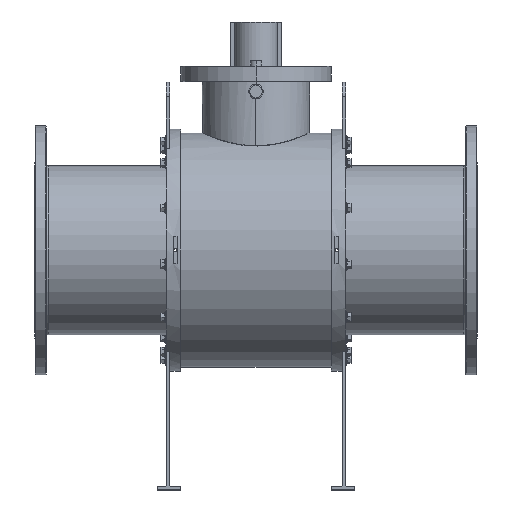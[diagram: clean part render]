
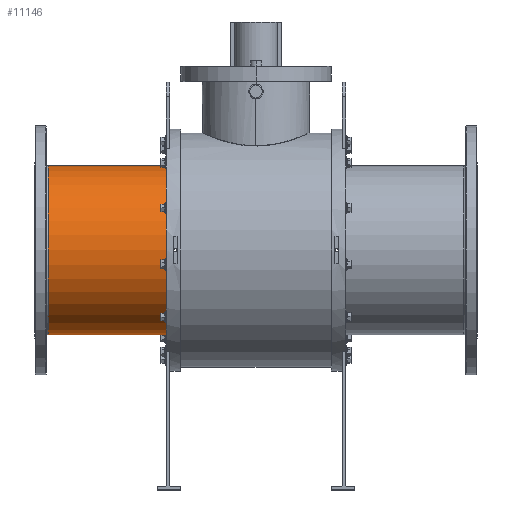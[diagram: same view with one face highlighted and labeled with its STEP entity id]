
A CAD part, top view. The second image highlights one B-rep face of the part: STEP entity #11146.
In plain terms, the highlighted cylindrical face has radius 232.75 mm (diameter 465.5 mm), a partial arc.
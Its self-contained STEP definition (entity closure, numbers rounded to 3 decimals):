
#322 = DIRECTION ( 'NONE',  ( -1., 0., 0. ) ) ;
#726 = CYLINDRICAL_SURFACE ( 'NONE', #10159, 232.75 ) ;
#1344 = ORIENTED_EDGE ( 'NONE', *, *, #8030, .F. ) ;
#1871 = DIRECTION ( 'NONE',  ( -1., 0., 0. ) ) ;
#2106 = CARTESIAN_POINT ( 'NONE',  ( -572.5, 0., 0. ) ) ;
#2109 = CARTESIAN_POINT ( 'NONE',  ( -247.5, 232.75, 0. ) ) ;
#2620 = CARTESIAN_POINT ( 'NONE',  ( -572.5, -232.75, 0. ) ) ;
#2702 = FACE_OUTER_BOUND ( 'NONE', #13178, .T. ) ;
#2843 = DIRECTION ( 'NONE',  ( -1., 0., 0. ) ) ;
#2879 = VERTEX_POINT ( 'NONE', #2620 ) ;
#2881 = CARTESIAN_POINT ( 'NONE',  ( -572.5, 232.75, 0. ) ) ;
#3092 = CIRCLE ( 'NONE', #6936, 232.75 ) ;
#3187 = VERTEX_POINT ( 'NONE', #7722 ) ;
#3376 = VERTEX_POINT ( 'NONE', #2881 ) ;
#3515 = EDGE_CURVE ( 'NONE', #3376, #2879, #3092, .T. ) ;
#4624 = LINE ( 'NONE', #8980, #9975 ) ;
#4666 = ORIENTED_EDGE ( 'NONE', *, *, #10112, .T. ) ;
#6244 = VECTOR ( 'NONE', #1871, 1000. ) ;
#6494 = DIRECTION ( 'NONE',  ( 0., 0., 1. ) ) ;
#6936 = AXIS2_PLACEMENT_3D ( 'NONE', #2106, #12860, #10674 ) ;
#7261 = CARTESIAN_POINT ( 'NONE',  ( -609.5, -232.75, 0. ) ) ;
#7722 = CARTESIAN_POINT ( 'NONE',  ( -247.5, -232.75, 0. ) ) ;
#8030 = EDGE_CURVE ( 'NONE', #3187, #2879, #13774, .T. ) ;
#8102 = CARTESIAN_POINT ( 'NONE',  ( -609.5, 0., 0. ) ) ;
#8828 = AXIS2_PLACEMENT_3D ( 'NONE', #8919, #322, #6494 ) ;
#8919 = CARTESIAN_POINT ( 'NONE',  ( -247.5, 0., 0. ) ) ;
#8980 = CARTESIAN_POINT ( 'NONE',  ( -609.5, 232.75, 0. ) ) ;
#9594 = EDGE_CURVE ( 'NONE', #3187, #13907, #11312, .T. ) ;
#9975 = VECTOR ( 'NONE', #12372, 1000. ) ;
#10112 = EDGE_CURVE ( 'NONE', #13907, #3376, #4624, .T. ) ;
#10159 = AXIS2_PLACEMENT_3D ( 'NONE', #8102, #2843, #10220 ) ;
#10220 = DIRECTION ( 'NONE',  ( 0., -1., 0. ) ) ;
#10674 = DIRECTION ( 'NONE',  ( 0., -1., 0. ) ) ;
#11146 = ADVANCED_FACE ( 'NONE', ( #2702 ), #726, .T. ) ;
#11312 = CIRCLE ( 'NONE', #8828, 232.75 ) ;
#11360 = ORIENTED_EDGE ( 'NONE', *, *, #9594, .T. ) ;
#12314 = ORIENTED_EDGE ( 'NONE', *, *, #3515, .T. ) ;
#12372 = DIRECTION ( 'NONE',  ( -1., 0., 0. ) ) ;
#12860 = DIRECTION ( 'NONE',  ( 1., 0., 0. ) ) ;
#13178 = EDGE_LOOP ( 'NONE', ( #11360, #4666, #12314, #1344 ) ) ;
#13774 = LINE ( 'NONE', #7261, #6244 ) ;
#13907 = VERTEX_POINT ( 'NONE', #2109 ) ;
